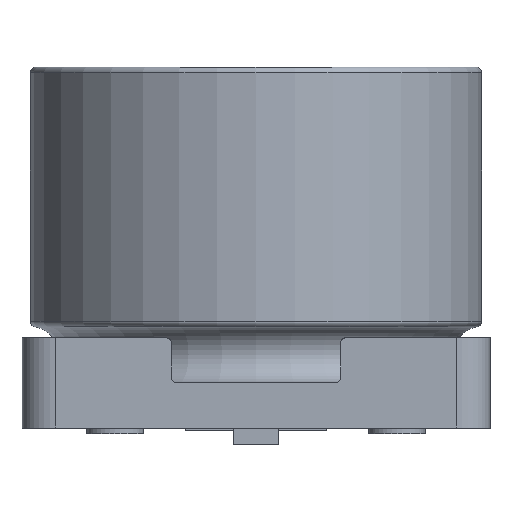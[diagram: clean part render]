
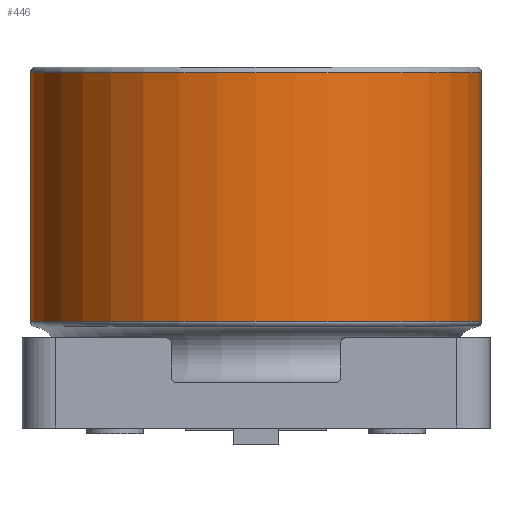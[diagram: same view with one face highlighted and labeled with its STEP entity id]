
A CAD part, left-side view. The second image highlights one B-rep face of the part: STEP entity #446.
In plain terms, the highlighted cylindrical face has radius 4 mm (diameter 8 mm), a full revolution.
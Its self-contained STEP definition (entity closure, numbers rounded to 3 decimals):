
#219=CYLINDRICAL_SURFACE('',#2487,4.);
#446=ADVANCED_FACE('',(#598,#599),#219,.T.);
#598=FACE_BOUND('',#672,.T.);
#599=FACE_BOUND('',#673,.T.);
#672=EDGE_LOOP('',(#1125));
#673=EDGE_LOOP('',(#1126));
#790=CIRCLE('',#2485,4.);
#791=CIRCLE('',#2486,4.);
#1125=ORIENTED_EDGE('',*,*,#1840,.T.);
#1126=ORIENTED_EDGE('',*,*,#1841,.T.);
#1591=VERTEX_POINT('',#3752);
#1592=VERTEX_POINT('',#3754);
#1840=EDGE_CURVE('',#1591,#1591,#790,.T.);
#1841=EDGE_CURVE('',#1592,#1592,#791,.T.);
#2485=AXIS2_PLACEMENT_3D('',#3751,#2909,#2910);
#2486=AXIS2_PLACEMENT_3D('',#3753,#2911,#2912);
#2487=AXIS2_PLACEMENT_3D('',#3755,#2913,#2914);
#2909=DIRECTION('',(0.,0.,1.));
#2910=DIRECTION('',(1.,0.,0.));
#2911=DIRECTION('',(0.,0.,-1.));
#2912=DIRECTION('',(-1.,0.,0.));
#2913=DIRECTION('',(0.,0.,-1.));
#2914=DIRECTION('',(-1.,0.,0.));
#3751=CARTESIAN_POINT('',(0.,0.,1.892));
#3752=CARTESIAN_POINT('',(4.,0.,1.892));
#3753=CARTESIAN_POINT('',(0.,0.,6.3));
#3754=CARTESIAN_POINT('',(-4.,0.,6.3));
#3755=CARTESIAN_POINT('',(0.,0.,0.));
